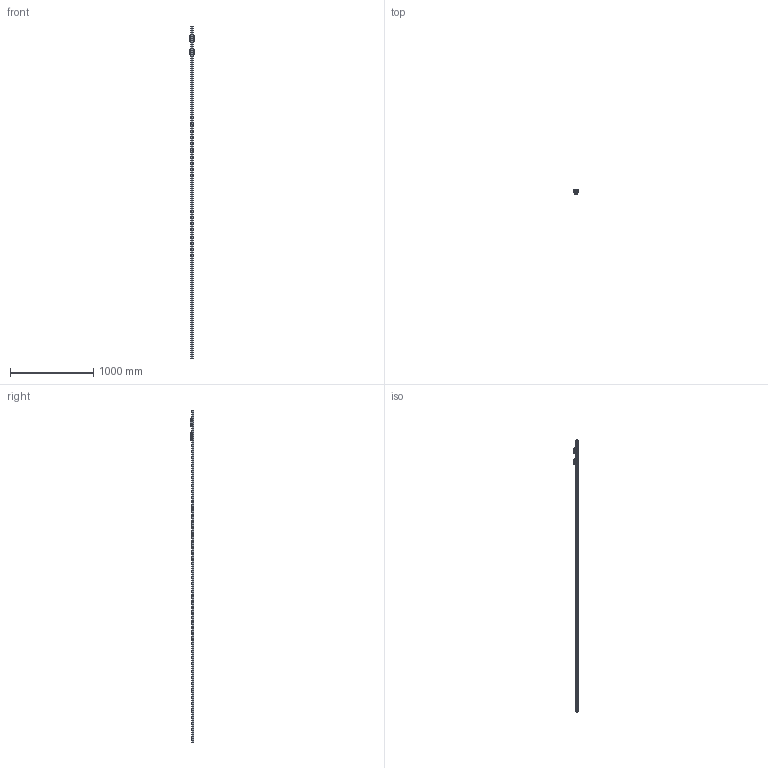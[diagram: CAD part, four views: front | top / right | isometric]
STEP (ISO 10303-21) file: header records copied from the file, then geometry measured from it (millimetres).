
FILE_DESCRIPTION((''),'2;1');
FILE_NAME('BRS30-SU_CUSTOMER_ASM_ASM_1_A_1_ASM','2020-11-25T09:48:11',('TWVS2025'),(''),'CREO PARAMETRIC BY PTC INC, 2018420','CREO PARAMETRIC BY PTC INC, 2018420','');
FILE_SCHEMA(('CONFIG_CONTROL_DESIGN'));
Products named in the file (5): BRR30_CUSTOMER_1_1_1_2_3_4_1_1; BC-BRD30-SU-ASM_1_; BC-BRC30-SU-ASM_; BC-BRC30-SU-ASM__ASM; BRS30-SU_CUSTOMER_ASM_ASM_1_A_1_ASM
Assembly tree (4 placements, depth 3):
  BRS30-SU_CUSTOMER_ASM_ASM_1_A_1_ASM
    BRR30_CUSTOMER_1_1_1_2_3_4_1_1
    BC-BRD30-SU-ASM_1_
    BC-BRC30-SU-ASM__ASM
      BC-BRC30-SU-ASM_
Bounding box: 59.95 x 42 x 4000 mm (x, y, z)
Volume: 2538683.7 mm3; surface area: 577506.3 mm2
Topology: 3 solids, 24 shells, 3034 faces, 8904 edges, 5856 vertices
Faces by surface type: plane 1756, cylinder 806, bspline 192, torus 148, cone 96, sphere 20, extrusion 16
Entity records: 137726 total; most frequent: CARTESIAN_POINT 58802, ORIENTED_EDGE 17584, DIRECTION 14870, EDGE_CURVE 8872, VERTEX_POINT 5856, VECTOR 5124, LINE 5108, AXIS2_PLACEMENT_3D 4873
